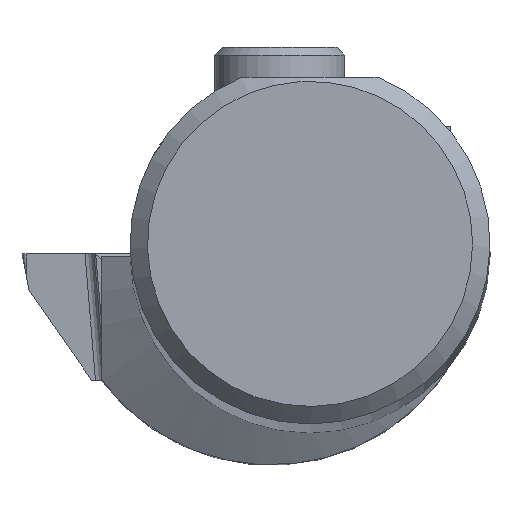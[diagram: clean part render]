
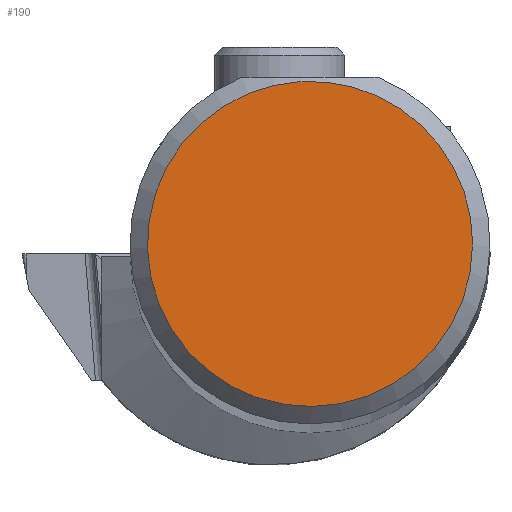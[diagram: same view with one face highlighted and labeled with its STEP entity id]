
A CAD part, top view. The second image highlights one B-rep face of the part: STEP entity #190.
In plain terms, the highlighted planar face has unit normal (0, 0, 1).
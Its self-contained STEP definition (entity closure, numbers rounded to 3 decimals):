
#96=PLANE('',#1663);
#161=CIRCLE('',#1662,7.169);
#190=ADVANCED_FACE('',(#298),#96,.T.);
#298=FACE_OUTER_BOUND('',#377,.T.);
#377=EDGE_LOOP('',(#813));
#813=ORIENTED_EDGE('',*,*,#1417,.T.);
#1263=VERTEX_POINT('',#2276);
#1417=EDGE_CURVE('',#1263,#1263,#161,.T.);
#1662=AXIS2_PLACEMENT_3D('',#2275,#1809,#1810);
#1663=AXIS2_PLACEMENT_3D('',#2277,#1811,#1812);
#1809=DIRECTION('',(0.,0.,1.));
#1810=DIRECTION('',(1.,0.,0.));
#1811=DIRECTION('',(0.,0.,1.));
#1812=DIRECTION('',(0.,-1.,0.));
#2275=CARTESIAN_POINT('',(0.,0.,0.));
#2276=CARTESIAN_POINT('',(7.169,0.,0.));
#2277=CARTESIAN_POINT('',(0.,0.,0.));
